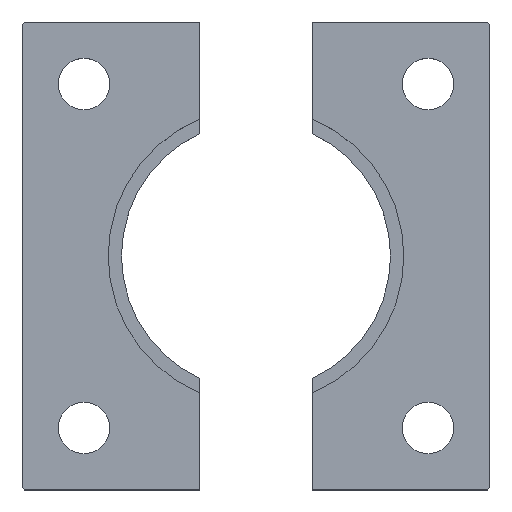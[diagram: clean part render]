
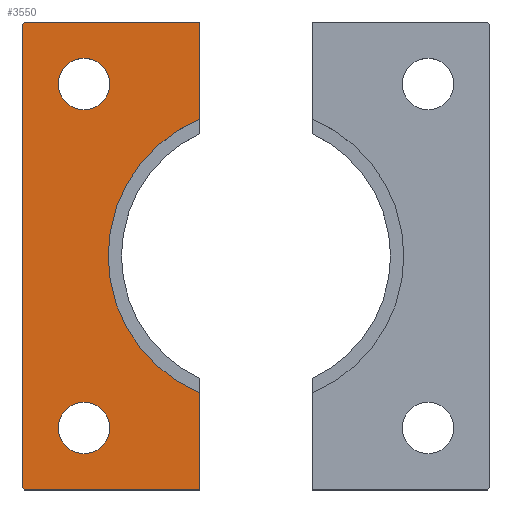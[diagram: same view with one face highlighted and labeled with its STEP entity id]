
A CAD part, top view. The second image highlights one B-rep face of the part: STEP entity #3550.
In plain terms, the highlighted planar face has unit normal (0, 0, 1).
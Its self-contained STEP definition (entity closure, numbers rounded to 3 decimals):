
#311=FACE_BOUND('',#633,.T.);
#312=FACE_BOUND('',#634,.T.);
#335=PLANE('',#3775);
#431=FACE_OUTER_BOUND('',#632,.T.);
#632=EDGE_LOOP('',(#2456,#2457,#2458,#2459,#2460,#2461,#2462,#2463));
#633=EDGE_LOOP('',(#2464));
#634=EDGE_LOOP('',(#2465));
#855=CIRCLE('',#3772,31.6);
#857=CIRCLE('',#3776,5.5);
#858=CIRCLE('',#3777,5.5);
#874=LINE('',#4481,#1208);
#875=LINE('',#4483,#1209);
#876=LINE('',#4485,#1210);
#877=LINE('',#4487,#1211);
#878=LINE('',#4489,#1212);
#879=LINE('',#4491,#1213);
#880=LINE('',#4492,#1214);
#1208=VECTOR('',#3907,10.);
#1209=VECTOR('',#3908,10.);
#1210=VECTOR('',#3909,10.);
#1211=VECTOR('',#3910,10.);
#1212=VECTOR('',#3911,10.);
#1213=VECTOR('',#3912,10.);
#1214=VECTOR('',#3913,10.);
#1539=VERTEX_POINT('',#4466);
#1541=VERTEX_POINT('',#4470);
#1544=VERTEX_POINT('',#4480);
#1545=VERTEX_POINT('',#4482);
#1546=VERTEX_POINT('',#4484);
#1547=VERTEX_POINT('',#4486);
#1548=VERTEX_POINT('',#4488);
#1549=VERTEX_POINT('',#4490);
#1550=VERTEX_POINT('',#4493);
#1551=VERTEX_POINT('',#4495);
#1905=EDGE_CURVE('',#1539,#1541,#855,.T.);
#1909=EDGE_CURVE('',#1544,#1541,#874,.T.);
#1910=EDGE_CURVE('',#1545,#1544,#875,.T.);
#1911=EDGE_CURVE('',#1546,#1545,#876,.T.);
#1912=EDGE_CURVE('',#1547,#1546,#877,.T.);
#1913=EDGE_CURVE('',#1548,#1547,#878,.T.);
#1914=EDGE_CURVE('',#1549,#1548,#879,.T.);
#1915=EDGE_CURVE('',#1539,#1549,#880,.T.);
#1916=EDGE_CURVE('',#1550,#1550,#857,.T.);
#1917=EDGE_CURVE('',#1551,#1551,#858,.T.);
#2456=ORIENTED_EDGE('',*,*,#1905,.T.);
#2457=ORIENTED_EDGE('',*,*,#1909,.F.);
#2458=ORIENTED_EDGE('',*,*,#1910,.F.);
#2459=ORIENTED_EDGE('',*,*,#1911,.F.);
#2460=ORIENTED_EDGE('',*,*,#1912,.F.);
#2461=ORIENTED_EDGE('',*,*,#1913,.F.);
#2462=ORIENTED_EDGE('',*,*,#1914,.F.);
#2463=ORIENTED_EDGE('',*,*,#1915,.F.);
#2464=ORIENTED_EDGE('',*,*,#1916,.T.);
#2465=ORIENTED_EDGE('',*,*,#1917,.T.);
#3550=ADVANCED_FACE('',(#431,#311,#312),#335,.T.);
#3772=AXIS2_PLACEMENT_3D('',#4472,#3897,#3898);
#3775=AXIS2_PLACEMENT_3D('',#4479,#3905,#3906);
#3776=AXIS2_PLACEMENT_3D('',#4494,#3914,#3915);
#3777=AXIS2_PLACEMENT_3D('',#4496,#3916,#3917);
#3897=DIRECTION('center_axis',(0.,0.,-1.));
#3898=DIRECTION('ref_axis',(-1.,0.,0.));
#3905=DIRECTION('center_axis',(0.,0.,1.));
#3906=DIRECTION('ref_axis',(1.,0.,0.));
#3907=DIRECTION('',(0.,-1.,0.));
#3908=DIRECTION('',(1.,0.,0.));
#3909=DIRECTION('',(0.707,0.707,0.));
#3910=DIRECTION('',(0.,1.,0.));
#3911=DIRECTION('',(-0.707,0.707,0.));
#3912=DIRECTION('',(-1.,0.,0.));
#3913=DIRECTION('',(0.,-1.,0.));
#3914=DIRECTION('center_axis',(0.,0.,-1.));
#3915=DIRECTION('ref_axis',(-1.,0.,0.));
#3916=DIRECTION('center_axis',(0.,0.,-1.));
#3917=DIRECTION('ref_axis',(-1.,0.,0.));
#4466=CARTESIAN_POINT('',(-12.,-29.233,12.));
#4470=CARTESIAN_POINT('',(-12.,29.233,12.));
#4472=CARTESIAN_POINT('Origin',(0.,0.,12.));
#4479=CARTESIAN_POINT('Origin',(-30.959,0.,
12.));
#4480=CARTESIAN_POINT('',(-12.,50.,12.));
#4481=CARTESIAN_POINT('',(-12.,-50.,12.));
#4482=CARTESIAN_POINT('',(-49.5,50.,12.));
#4483=CARTESIAN_POINT('',(-12.,50.,12.));
#4484=CARTESIAN_POINT('',(-50.,49.5,12.));
#4485=CARTESIAN_POINT('',(-49.5,50.,12.));
#4486=CARTESIAN_POINT('',(-50.,-49.5,12.));
#4487=CARTESIAN_POINT('',(-50.,49.5,12.));
#4488=CARTESIAN_POINT('',(-49.5,-50.,12.));
#4489=CARTESIAN_POINT('',(-50.,-49.5,12.));
#4490=CARTESIAN_POINT('',(-12.,-50.,12.));
#4491=CARTESIAN_POINT('',(-49.5,-50.,12.));
#4492=CARTESIAN_POINT('',(-12.,-50.,12.));
#4493=CARTESIAN_POINT('',(-31.25,-36.75,12.));
#4494=CARTESIAN_POINT('Origin',(-36.75,-36.75,12.));
#4495=CARTESIAN_POINT('',(-31.25,36.75,12.));
#4496=CARTESIAN_POINT('Origin',(-36.75,36.75,12.));
